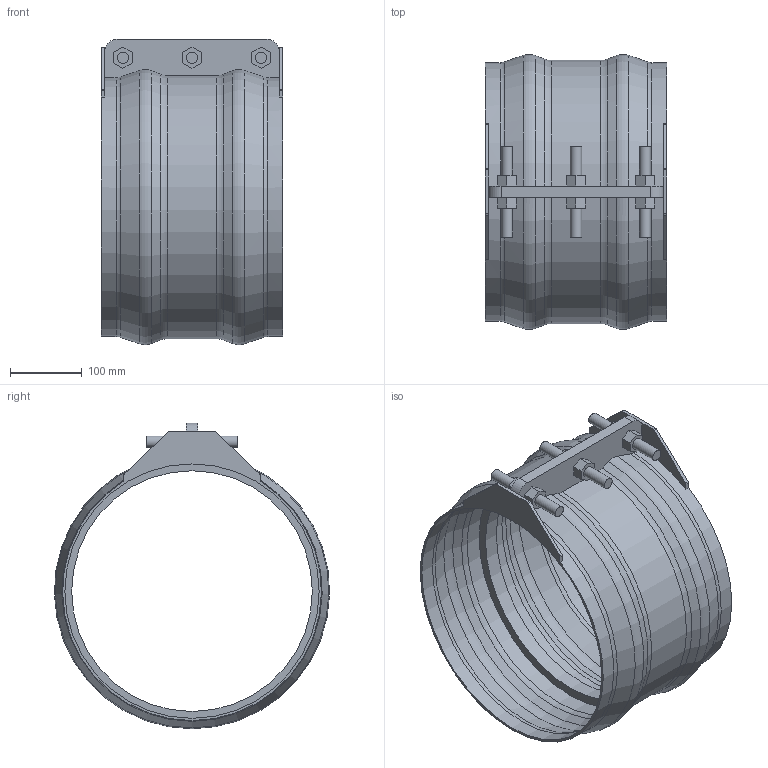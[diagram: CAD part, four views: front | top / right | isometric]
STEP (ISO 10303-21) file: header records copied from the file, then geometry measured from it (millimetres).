
FILE_DESCRIPTION(/* description */ ('VIC SS NON RESTRAINED COUPLING STYLE 229S (FLEX) (BEF)','CAx-IF Rec.Pracs.---Representation and Presentation of Product Manufacturing Information (PMI)---4.0---2014-10-13'),/* implementation_level */ '2;1');
FILE_NAME(/* name */ 'C:\Users\Vjadhav\Desktop\CAD for Inventor\1\229S\STEP\Victaulic_VBSP_Coupling Flexible Non-Restrained_Style 229S (BEF)\Victaulic_VBSP_Coupling Flexible Non-Restrained_Style 229S (BEF)_14 (350).stp',/* time_stamp */ '2021-08-26T18:17:01+06:00',/* author */ ('Vjadhav'),/* organization */ ('Victaulic'),/* preprocessor_version */ 'ST-DEVELOPER v17.2',/* originating_system */ 'Autodesk Inventor 2019',/* authorisation */ '');
FILE_SCHEMA (('AP242_MANAGED_MODEL_BASED_3D_ENGINEERING_MIM_LF { 1 0 10303 442 1 1 4 }'));
Length unit declared in the file: inch
Products named in the file (1): 229S-14.0
Bounding box: 254 x 384.73 x 427.05 mm (x, y, z)
Volume: 1562606.8 mm3; surface area: 702296.9 mm2
Topology: 1 solids, 1 shells, 111 faces, 301 edges, 206 vertices
Faces by surface type: plane 67, cylinder 24, torus 12, cone 8
Full cylindrical faces by diameter (mm): 15.875 x6, 336.55 x1, 355.6 x2, 361.95 x2
Entity records: 3858 total; most frequent: CARTESIAN_POINT 732, DIRECTION 633, ORIENTED_EDGE 602, EDGE_CURVE 301, AXIS2_PLACEMENT_3D 227, VERTEX_POINT 206, LINE 179, VECTOR 179
